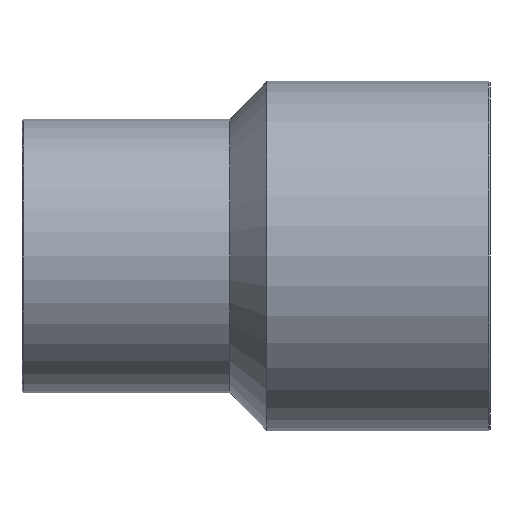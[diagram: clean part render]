
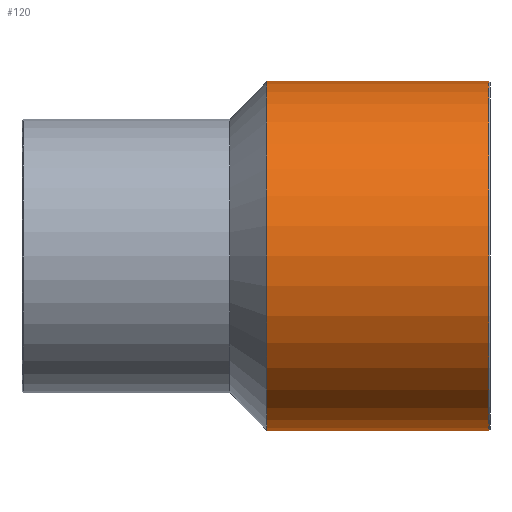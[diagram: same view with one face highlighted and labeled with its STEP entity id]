
A CAD part, front view. The second image highlights one B-rep face of the part: STEP entity #120.
In plain terms, the highlighted cylindrical face has radius 80 mm (diameter 160 mm), a full revolution.
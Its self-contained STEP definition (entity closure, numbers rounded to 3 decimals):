
#26=ORIENTED_EDGE('',*,*,#46,.T.);
#27=ORIENTED_EDGE('',*,*,#47,.F.);
#46=EDGE_CURVE('',#56,#56,#66,.T.);
#47=EDGE_CURVE('',#57,#57,#67,.T.);
#56=VERTEX_POINT('',#208);
#57=VERTEX_POINT('',#210);
#66=CIRCLE('',#144,80.);
#67=CIRCLE('',#145,80.);
#76=EDGE_LOOP('',(#26));
#77=EDGE_LOOP('',(#27));
#96=FACE_BOUND('',#76,.T.);
#97=FACE_BOUND('',#77,.T.);
#116=CYLINDRICAL_SURFACE('',#143,80.);
#120=ADVANCED_FACE('',(#96,#97),#116,.T.);
#143=AXIS2_PLACEMENT_3D('',#206,#165,#166);
#144=AXIS2_PLACEMENT_3D('',#207,#167,#168);
#145=AXIS2_PLACEMENT_3D('',#209,#169,#170);
#165=DIRECTION('',(-1.,0.,0.));
#166=DIRECTION('',(0.,0.,1.));
#167=DIRECTION('',(-1.,0.,0.));
#168=DIRECTION('',(0.,0.,1.));
#169=DIRECTION('',(-1.,0.,0.));
#170=DIRECTION('',(0.,0.,1.));
#206=CARTESIAN_POINT('',(-60.,0.,0.));
#207=CARTESIAN_POINT('',(110.,0.,0.));
#208=CARTESIAN_POINT('',(110.,0.,80.));
#209=CARTESIAN_POINT('',(8.5,0.,0.));
#210=CARTESIAN_POINT('',(8.5,0.,80.));
